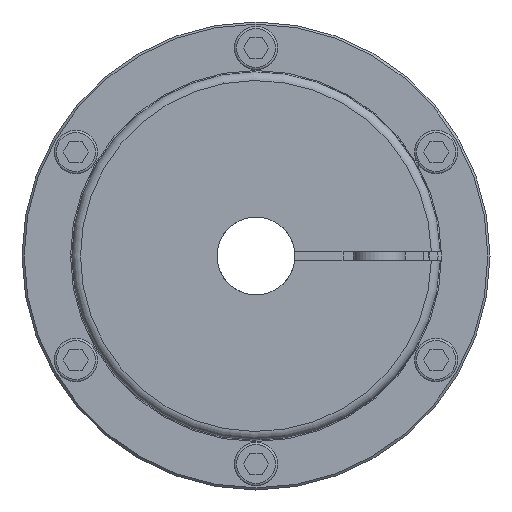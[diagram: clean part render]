
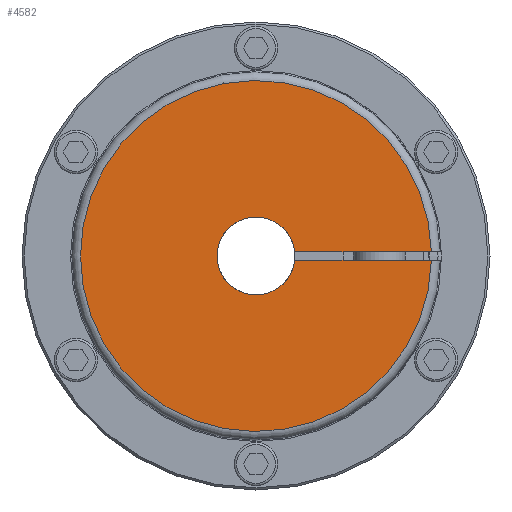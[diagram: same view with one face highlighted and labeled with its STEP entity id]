
A CAD part, left-side view. The second image highlights one B-rep face of the part: STEP entity #4582.
In plain terms, the highlighted planar face has unit normal (-1, 0, 0).
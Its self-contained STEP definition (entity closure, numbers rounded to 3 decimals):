
#181=PLANE('',#4962);
#387=LINE('',#7589,#663);
#388=LINE('',#7590,#664);
#663=VECTOR('',#5712,1000.);
#664=VECTOR('',#5713,1000.);
#1564=ORIENTED_EDGE('',*,*,#2799,.F.);
#1565=ORIENTED_EDGE('',*,*,#2798,.F.);
#1566=ORIENTED_EDGE('',*,*,#2800,.F.);
#1567=ORIENTED_EDGE('',*,*,#2478,.T.);
#2478=EDGE_CURVE('',#3156,#3155,#3593,.T.);
#2798=EDGE_CURVE('',#3404,#3403,#3669,.T.);
#2799=EDGE_CURVE('',#3403,#3155,#387,.T.);
#2800=EDGE_CURVE('',#3156,#3404,#388,.T.);
#3155=VERTEX_POINT('',#6530);
#3156=VERTEX_POINT('',#6532);
#3403=VERTEX_POINT('',#7584);
#3404=VERTEX_POINT('',#7586);
#3593=CIRCLE('',#4812,40.5);
#3669=CIRCLE('',#4961,9.);
#3872=EDGE_LOOP('',(#1564,#1565,#1566,#1567));
#4229=FACE_BOUND('',#3872,.T.);
#4582=ADVANCED_FACE('',(#4229),#181,.T.);
#4812=AXIS2_PLACEMENT_3D('',#6531,#5260,#5261);
#4961=AXIS2_PLACEMENT_3D('',#7587,#5708,#5709);
#4962=AXIS2_PLACEMENT_3D('',#7588,#5710,#5711);
#5260=DIRECTION('',(-1.,0.,0.));
#5261=DIRECTION('',(0.,0.,1.));
#5708=DIRECTION('',(-1.,0.,0.));
#5709=DIRECTION('',(0.,0.,1.));
#5710=DIRECTION('',(-1.,0.,0.));
#5711=DIRECTION('',(0.,0.,1.));
#5712=DIRECTION('',(0.,-1.,0.));
#5713=DIRECTION('',(0.,1.,0.));
#6530=CARTESIAN_POINT('',(0.,-40.488,-1.));
#6531=CARTESIAN_POINT('',(0.,0.,0.));
#6532=CARTESIAN_POINT('',(0.,-40.488,1.));
#7584=CARTESIAN_POINT('',(0.,-8.944,-1.));
#7586=CARTESIAN_POINT('',(0.,-8.944,1.));
#7587=CARTESIAN_POINT('',(0.,0.,0.));
#7588=CARTESIAN_POINT('',(0.,0.,9.));
#7589=CARTESIAN_POINT('',(0.,1.233,-1.));
#7590=CARTESIAN_POINT('',(0.,-56.825,1.));
